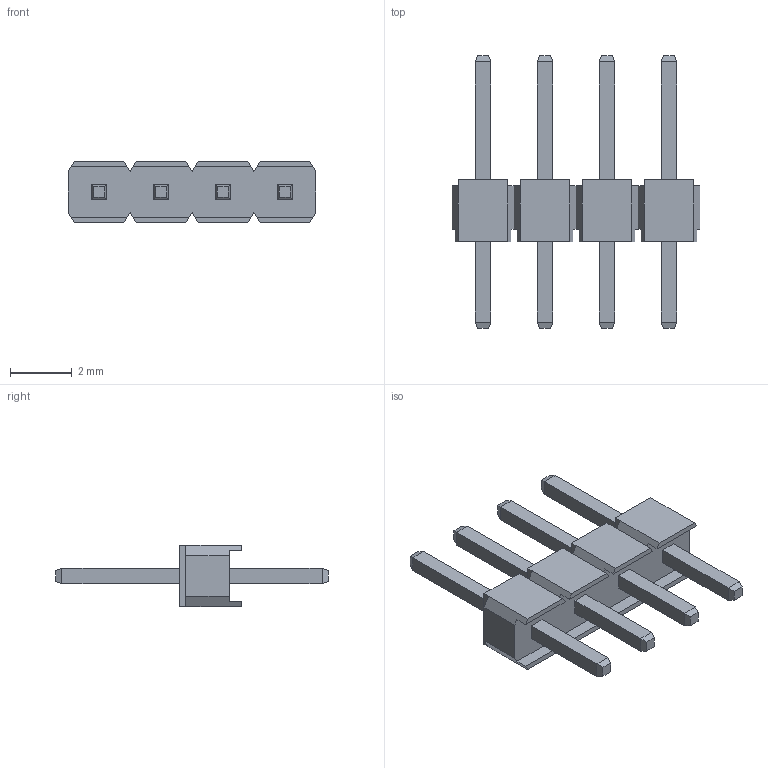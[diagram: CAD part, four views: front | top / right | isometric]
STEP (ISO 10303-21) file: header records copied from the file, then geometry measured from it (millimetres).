
FILE_DESCRIPTION (( 'STEP AP214' ), '1' );
FILE_NAME ('pls2-4.STEP', '2011-06-02T10:18:42', ( 'vpeshkov' ), ( 'licard' ), 'SwSTEP 2.0', 'SolidWorks 2009', '' );
FILE_SCHEMA (( 'AUTOMOTIVE_DESIGN' ));
Length unit declared in the file: millimetre
Products named in the file (1): pls2-4
Bounding box: 8 x 8.8 x 2 mm (x, y, z)
Volume: 32.2 mm3; surface area: 135.7 mm2
Topology: 1 solids, 1 shells, 132 faces, 318 edges, 196 vertices
Faces by surface type: plane 132
Entity records: 4524 total; most frequent: CARTESIAN_POINT 647, ORIENTED_EDGE 636, DIRECTION 584, EDGE_CURVE 318, VECTOR 318, LINE 318, VERTEX_POINT 196, EDGE_LOOP 140
